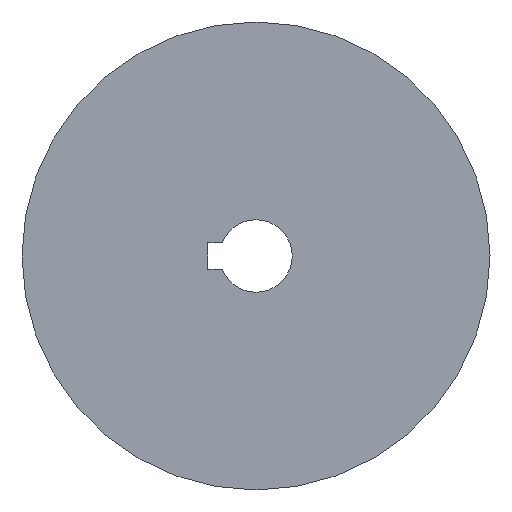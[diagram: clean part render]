
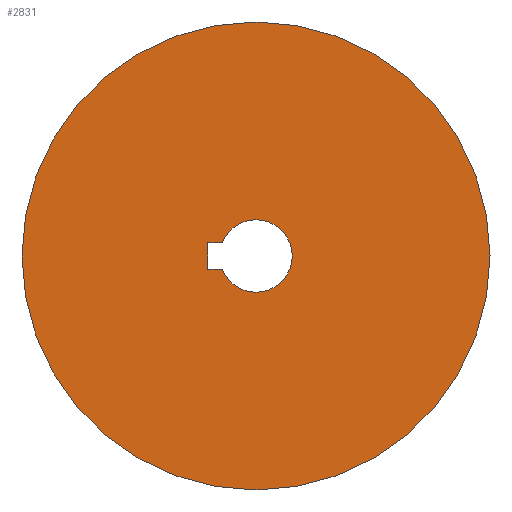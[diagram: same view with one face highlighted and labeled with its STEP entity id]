
A CAD part, left-side view. The second image highlights one B-rep face of the part: STEP entity #2831.
In plain terms, the highlighted planar face has unit normal (-1, 0, 0).
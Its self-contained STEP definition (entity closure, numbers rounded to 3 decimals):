
#277 = CARTESIAN_POINT ( 'NONE',  ( -2.25, 7.3, -2. ) ) ;
#278 = CARTESIAN_POINT ( 'NONE',  ( -2.25, 7.3, 2. ) ) ;
#279 = CARTESIAN_POINT ( 'NONE',  ( -2.25, 5.123, 2. ) ) ;
#330 = CARTESIAN_POINT ( 'NONE',  ( -2.25, 0., -35.5 ) ) ;
#331 = CARTESIAN_POINT ( 'NONE',  ( -2.25, 0., 35.5 ) ) ;
#333 = CARTESIAN_POINT ( 'NONE',  ( -2.25, 5.123, -2. ) ) ;
#336 = CARTESIAN_POINT ( 'NONE',  ( -2.25, 0., -5.5 ) ) ;
#343 = CARTESIAN_POINT ( 'NONE',  ( -2.25, 0., 5.5 ) ) ;
#584 = VERTEX_POINT ( 'NONE', #277 ) ;
#585 = VERTEX_POINT ( 'NONE', #278 ) ;
#586 = VERTEX_POINT ( 'NONE', #279 ) ;
#1310 = ORIENTED_EDGE ( 'NONE', *, *, #9294, .T. ) ;
#1312 = ORIENTED_EDGE ( 'NONE', *, *, #9334, .T. ) ;
#1313 = ORIENTED_EDGE ( 'NONE', *, *, #9295, .T. ) ;
#1314 = ORIENTED_EDGE ( 'NONE', *, *, #9279, .F. ) ;
#1315 = ORIENTED_EDGE ( 'NONE', *, *, #3126, .F. ) ;
#1317 = ORIENTED_EDGE ( 'NONE', *, *, #3123, .F. ) ;
#1318 = ORIENTED_EDGE ( 'NONE', *, *, #9273, .T. ) ;
#1320 = ORIENTED_EDGE ( 'NONE', *, *, #3119, .T. ) ;
#1934 = EDGE_LOOP ( 'NONE', ( #1318, #1320 ) ) ;
#1935 = EDGE_LOOP ( 'NONE', ( #1310, #1313, #1312, #1314, #1315, #1317 ) ) ;
#2183 = VERTEX_POINT ( 'NONE', #330 ) ;
#2184 = VERTEX_POINT ( 'NONE', #331 ) ;
#2186 = VERTEX_POINT ( 'NONE', #333 ) ;
#2189 = VERTEX_POINT ( 'NONE', #336 ) ;
#2196 = VERTEX_POINT ( 'NONE', #343 ) ;
#2831 = ADVANCED_FACE ( 'NONE', ( #3884, #3885 ), #5008, .T. ) ;
#3119 = EDGE_CURVE ( 'NONE', #2184, #2183, #10262, .T. ) ;
#3123 = EDGE_CURVE ( 'NONE', #2186, #2189, #10256, .T. ) ;
#3126 = EDGE_CURVE ( 'NONE', #2189, #2196, #10268, .T. ) ;
#3884 = FACE_BOUND ( 'NONE', #1935, .T. ) ;
#3885 = FACE_OUTER_BOUND ( 'NONE', #1934, .T. ) ;
#4410 = LINE ( 'NONE', #7560, #6889 ) ;
#4411 = LINE ( 'NONE', #7562, #6891 ) ;
#4414 = LINE ( 'NONE', #7676, #6966 ) ;
#5008 = PLANE ( 'NONE',  #9886 ) ;
#5009 = CARTESIAN_POINT ( 'NONE',  ( -2.25, 0., 0. ) ) ;
#5010 = DIRECTION ( 'NONE',  ( -1., 0., 0. ) ) ;
#5011 = DIRECTION ( 'NONE',  ( 0., 0., 1. ) ) ;
#5835 = CARTESIAN_POINT ( 'NONE',  ( -2.25, 0., 0. ) ) ;
#5836 = DIRECTION ( 'NONE',  ( -1., 0., 0. ) ) ;
#5837 = DIRECTION ( 'NONE',  ( 0., 0., 1. ) ) ;
#5845 = CARTESIAN_POINT ( 'NONE',  ( -2.25, 0., 0. ) ) ;
#5846 = DIRECTION ( 'NONE',  ( -1., 0., 0. ) ) ;
#5847 = DIRECTION ( 'NONE',  ( 0., 0., 1. ) ) ;
#5853 = CARTESIAN_POINT ( 'NONE',  ( -2.25, 0., 0. ) ) ;
#5854 = DIRECTION ( 'NONE',  ( -1., 0., 0. ) ) ;
#5855 = DIRECTION ( 'NONE',  ( 0., 0., 1. ) ) ;
#6845 = CIRCLE ( 'NONE', #6849, 35.5 ) ;
#6849 = AXIS2_PLACEMENT_3D ( 'NONE', #7498, #7499, #7500 ) ;
#6854 = CIRCLE ( 'NONE', #6861, 5.5 ) ;
#6861 = AXIS2_PLACEMENT_3D ( 'NONE', #7516, #7517, #7518 ) ;
#6889 = VECTOR ( 'NONE', #7561, 1000. ) ;
#6891 = VECTOR ( 'NONE', #7563, 1000. ) ;
#6966 = VECTOR ( 'NONE', #7677, 1000. ) ;
#7498 = CARTESIAN_POINT ( 'NONE',  ( -2.25, 0., 0. ) ) ;
#7499 = DIRECTION ( 'NONE',  ( -1., 0., 0. ) ) ;
#7500 = DIRECTION ( 'NONE',  ( 0., 0., 1. ) ) ;
#7516 = CARTESIAN_POINT ( 'NONE',  ( -2.25, 0., 0. ) ) ;
#7517 = DIRECTION ( 'NONE',  ( -1., 0., 0. ) ) ;
#7518 = DIRECTION ( 'NONE',  ( 0., 0., 1. ) ) ;
#7560 = CARTESIAN_POINT ( 'NONE',  ( -2.25, 7.3, -2. ) ) ;
#7561 = DIRECTION ( 'NONE',  ( 0., 1., 0. ) ) ;
#7562 = CARTESIAN_POINT ( 'NONE',  ( -2.25, 7.3, 2. ) ) ;
#7563 = DIRECTION ( 'NONE',  ( 0., 0., 1. ) ) ;
#7676 = CARTESIAN_POINT ( 'NONE',  ( -2.25, 5.123, 2. ) ) ;
#7677 = DIRECTION ( 'NONE',  ( 0., -1., 0. ) ) ;
#9273 = EDGE_CURVE ( 'NONE', #2183, #2184, #6845, .T. ) ;
#9279 = EDGE_CURVE ( 'NONE', #2196, #586, #6854, .T. ) ;
#9294 = EDGE_CURVE ( 'NONE', #2186, #584, #4410, .T. ) ;
#9295 = EDGE_CURVE ( 'NONE', #584, #585, #4411, .T. ) ;
#9334 = EDGE_CURVE ( 'NONE', #585, #586, #4414, .T. ) ;
#9886 = AXIS2_PLACEMENT_3D ( 'NONE', #5009, #5010, #5011 ) ;
#10256 = CIRCLE ( 'NONE', #10269, 5.5 ) ;
#10262 = CIRCLE ( 'NONE', #10263, 35.5 ) ;
#10263 = AXIS2_PLACEMENT_3D ( 'NONE', #5835, #5836, #5837 ) ;
#10268 = CIRCLE ( 'NONE', #10274, 5.5 ) ;
#10269 = AXIS2_PLACEMENT_3D ( 'NONE', #5845, #5846, #5847 ) ;
#10274 = AXIS2_PLACEMENT_3D ( 'NONE', #5853, #5854, #5855 ) ;
